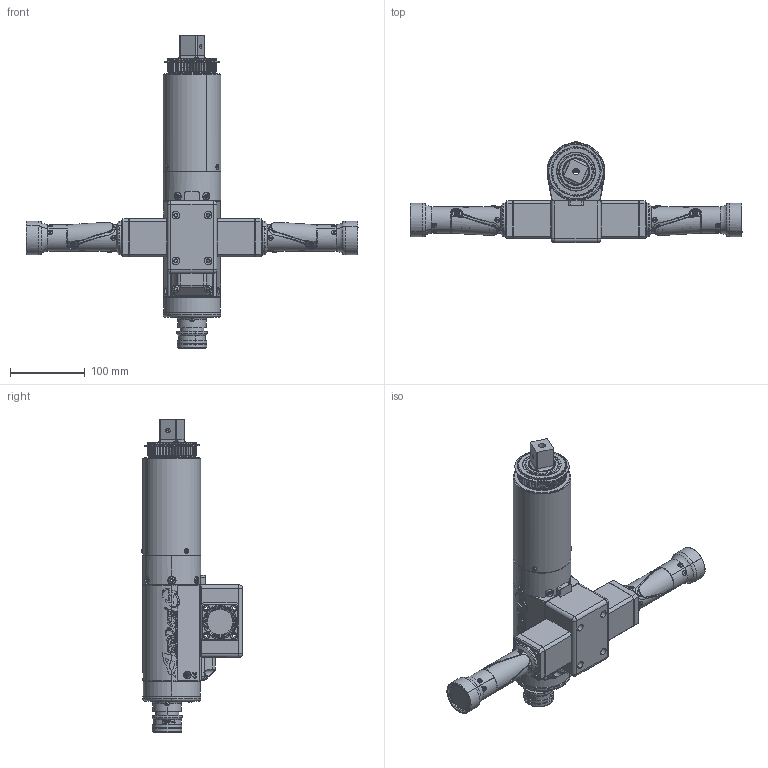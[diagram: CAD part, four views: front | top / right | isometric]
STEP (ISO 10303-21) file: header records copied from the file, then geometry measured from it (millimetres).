
FILE_DESCRIPTION (( 'STEP AP214' ), '1' );
FILE_NAME ('AEF4B773000BDL.STEP', '2016-08-23T17:23:48', ( 'AIMCO' ), ( '' ), 'SwSTEP 2.0', 'SolidWorks 2016', '' );
FILE_SCHEMA (( 'AUTOMOTIVE_DESIGN' ));
Length unit declared in the file: inch
Products named in the file (1): AEF4B773000BDL
Bounding box: 443.84 x 135.01 x 418.14 mm (x, y, z)
Surface area: 289084.3 mm2 (no closed solid volume)
Topology: 0 solids, 166 shells, 1700 faces, 6806 edges, 5010 vertices
Faces by surface type: cylinder 539, plane 466, bspline 241, torus 227, cone 211, sphere 16
Entity records: 163768 total; most frequent: CARTESIAN_POINT 90858, ORIENTED_EDGE 9986, DIRECTION 9346, EDGE_CURVE 6800, VERTEX_POINT 5010, AXIS2_PLACEMENT_3D 3537, LINE 2272, VECTOR 2272
